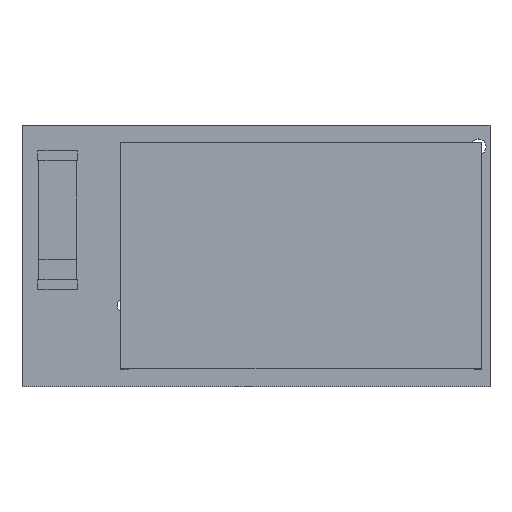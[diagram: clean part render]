
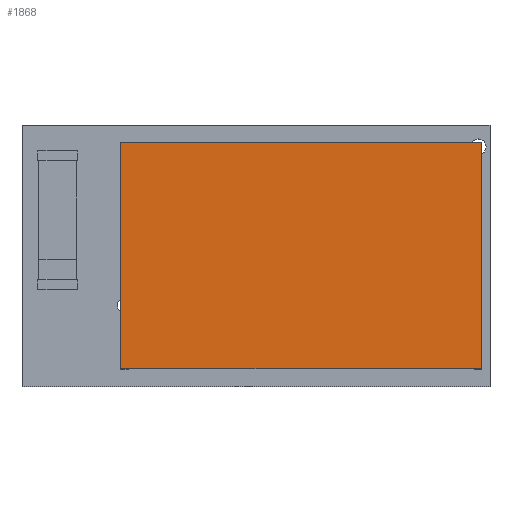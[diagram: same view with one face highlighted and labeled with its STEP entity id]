
A CAD part, top view. The second image highlights one B-rep face of the part: STEP entity #1868.
In plain terms, the highlighted planar face has unit normal (0, 0, 1) as drawn and (0, 0, -1) by its records, which use the part's own axes.
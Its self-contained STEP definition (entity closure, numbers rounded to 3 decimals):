
#613 = PLANE('',#614);
#614 = AXIS2_PLACEMENT_3D('',#615,#616,#617);
#615 = CARTESIAN_POINT('',(-18.6,5.7,2.));
#616 = DIRECTION('',(1.,0.,0.));
#617 = DIRECTION('',(0.,0.,-1.));
#695 = PLANE('',#696);
#696 = AXIS2_PLACEMENT_3D('',#697,#698,#699);
#697 = CARTESIAN_POINT('',(-18.6,5.7,2.));
#698 = DIRECTION('',(0.,-1.,0.));
#699 = DIRECTION('',(1.,0.,0.));
#789 = PLANE('',#790);
#790 = AXIS2_PLACEMENT_3D('',#791,#792,#793);
#791 = CARTESIAN_POINT('',(-0.4,5.7,2.));
#792 = DIRECTION('',(-1.,0.,0.));
#793 = DIRECTION('',(0.,0.,1.));
#853 = PLANE('',#854);
#854 = AXIS2_PLACEMENT_3D('',#855,#856,#857);
#855 = CARTESIAN_POINT('',(-18.6,-5.7,2.));
#856 = DIRECTION('',(0.,1.,0.));
#857 = DIRECTION('',(-1.,0.,0.));
#1369 = VERTEX_POINT('',#1370);
#1370 = CARTESIAN_POINT('',(-18.6,5.7,0.));
#1391 = EDGE_CURVE('',#1369,#1392,#1394,.T.);
#1392 = VERTEX_POINT('',#1393);
#1393 = CARTESIAN_POINT('',(-18.6,-5.7,0.));
#1394 = SURFACE_CURVE('',#1395,(#1399,#1406),.PCURVE_S1.);
#1395 = LINE('',#1396,#1397);
#1396 = CARTESIAN_POINT('',(-18.6,5.7,0.));
#1397 = VECTOR('',#1398,1.);
#1398 = DIRECTION('',(0.,-1.,0.));
#1399 = PCURVE('',#613,#1400);
#1400 = DEFINITIONAL_REPRESENTATION('',(#1401),#1405);
#1401 = LINE('',#1402,#1403);
#1402 = CARTESIAN_POINT('',(2.,0.));
#1403 = VECTOR('',#1404,1.);
#1404 = DIRECTION('',(0.,-1.));
#1405 = ( GEOMETRIC_REPRESENTATION_CONTEXT(2) 
PARAMETRIC_REPRESENTATION_CONTEXT() REPRESENTATION_CONTEXT('2D SPACE',''
  ) );
#1406 = PCURVE('',#1407,#1412);
#1407 = PLANE('',#1408);
#1408 = AXIS2_PLACEMENT_3D('',#1409,#1410,#1411);
#1409 = CARTESIAN_POINT('',(0.,0.,0.));
#1410 = DIRECTION('',(0.,0.,1.));
#1411 = DIRECTION('',(1.,0.,0.));
#1412 = DEFINITIONAL_REPRESENTATION('',(#1413),#1417);
#1413 = LINE('',#1414,#1415);
#1414 = CARTESIAN_POINT('',(-18.6,5.7));
#1415 = VECTOR('',#1416,1.);
#1416 = DIRECTION('',(0.,-1.));
#1417 = ( GEOMETRIC_REPRESENTATION_CONTEXT(2) 
PARAMETRIC_REPRESENTATION_CONTEXT() REPRESENTATION_CONTEXT('2D SPACE',''
  ) );
#1513 = EDGE_CURVE('',#1392,#1514,#1516,.T.);
#1514 = VERTEX_POINT('',#1515);
#1515 = CARTESIAN_POINT('',(-0.4,-5.7,0.));
#1516 = SURFACE_CURVE('',#1517,(#1521,#1528),.PCURVE_S1.);
#1517 = LINE('',#1518,#1519);
#1518 = CARTESIAN_POINT('',(-18.6,-5.7,0.));
#1519 = VECTOR('',#1520,1.);
#1520 = DIRECTION('',(1.,0.,0.));
#1521 = PCURVE('',#853,#1522);
#1522 = DEFINITIONAL_REPRESENTATION('',(#1523),#1527);
#1523 = LINE('',#1524,#1525);
#1524 = CARTESIAN_POINT('',(0.,-2.));
#1525 = VECTOR('',#1526,1.);
#1526 = DIRECTION('',(-1.,0.));
#1527 = ( GEOMETRIC_REPRESENTATION_CONTEXT(2) 
PARAMETRIC_REPRESENTATION_CONTEXT() REPRESENTATION_CONTEXT('2D SPACE',''
  ) );
#1528 = PCURVE('',#1407,#1529);
#1529 = DEFINITIONAL_REPRESENTATION('',(#1530),#1534);
#1530 = LINE('',#1531,#1532);
#1531 = CARTESIAN_POINT('',(-18.6,-5.7));
#1532 = VECTOR('',#1533,1.);
#1533 = DIRECTION('',(1.,0.));
#1534 = ( GEOMETRIC_REPRESENTATION_CONTEXT(2) 
PARAMETRIC_REPRESENTATION_CONTEXT() REPRESENTATION_CONTEXT('2D SPACE',''
  ) );
#1730 = EDGE_CURVE('',#1514,#1731,#1733,.T.);
#1731 = VERTEX_POINT('',#1732);
#1732 = CARTESIAN_POINT('',(-0.4,5.7,0.));
#1733 = SURFACE_CURVE('',#1734,(#1738,#1745),.PCURVE_S1.);
#1734 = LINE('',#1735,#1736);
#1735 = CARTESIAN_POINT('',(-0.4,5.7,0.));
#1736 = VECTOR('',#1737,1.);
#1737 = DIRECTION('',(0.,1.,0.));
#1738 = PCURVE('',#789,#1739);
#1739 = DEFINITIONAL_REPRESENTATION('',(#1740),#1744);
#1740 = LINE('',#1741,#1742);
#1741 = CARTESIAN_POINT('',(-2.,0.));
#1742 = VECTOR('',#1743,1.);
#1743 = DIRECTION('',(0.,1.));
#1744 = ( GEOMETRIC_REPRESENTATION_CONTEXT(2) 
PARAMETRIC_REPRESENTATION_CONTEXT() REPRESENTATION_CONTEXT('2D SPACE',''
  ) );
#1745 = PCURVE('',#1407,#1746);
#1746 = DEFINITIONAL_REPRESENTATION('',(#1747),#1751);
#1747 = LINE('',#1748,#1749);
#1748 = CARTESIAN_POINT('',(-0.4,5.7));
#1749 = VECTOR('',#1750,1.);
#1750 = DIRECTION('',(0.,1.));
#1751 = ( GEOMETRIC_REPRESENTATION_CONTEXT(2) 
PARAMETRIC_REPRESENTATION_CONTEXT() REPRESENTATION_CONTEXT('2D SPACE',''
  ) );
#1847 = EDGE_CURVE('',#1731,#1369,#1848,.T.);
#1848 = SURFACE_CURVE('',#1849,(#1853,#1860),.PCURVE_S1.);
#1849 = LINE('',#1850,#1851);
#1850 = CARTESIAN_POINT('',(-18.6,5.7,0.));
#1851 = VECTOR('',#1852,1.);
#1852 = DIRECTION('',(-1.,0.,0.));
#1853 = PCURVE('',#695,#1854);
#1854 = DEFINITIONAL_REPRESENTATION('',(#1855),#1859);
#1855 = LINE('',#1856,#1857);
#1856 = CARTESIAN_POINT('',(0.,-2.));
#1857 = VECTOR('',#1858,1.);
#1858 = DIRECTION('',(-1.,0.));
#1859 = ( GEOMETRIC_REPRESENTATION_CONTEXT(2) 
PARAMETRIC_REPRESENTATION_CONTEXT() REPRESENTATION_CONTEXT('2D SPACE',''
  ) );
#1860 = PCURVE('',#1407,#1861);
#1861 = DEFINITIONAL_REPRESENTATION('',(#1862),#1866);
#1862 = LINE('',#1863,#1864);
#1863 = CARTESIAN_POINT('',(-18.6,5.7));
#1864 = VECTOR('',#1865,1.);
#1865 = DIRECTION('',(-1.,0.));
#1866 = ( GEOMETRIC_REPRESENTATION_CONTEXT(2) 
PARAMETRIC_REPRESENTATION_CONTEXT() REPRESENTATION_CONTEXT('2D SPACE',''
  ) );
#1868 = ADVANCED_FACE('',(#1869),#1407,.F.);
#1869 = FACE_BOUND('',#1870,.T.);
#1870 = EDGE_LOOP('',(#1871,#1872,#1873,#1874));
#1871 = ORIENTED_EDGE('',*,*,#1391,.F.);
#1872 = ORIENTED_EDGE('',*,*,#1847,.F.);
#1873 = ORIENTED_EDGE('',*,*,#1730,.F.);
#1874 = ORIENTED_EDGE('',*,*,#1513,.F.);
